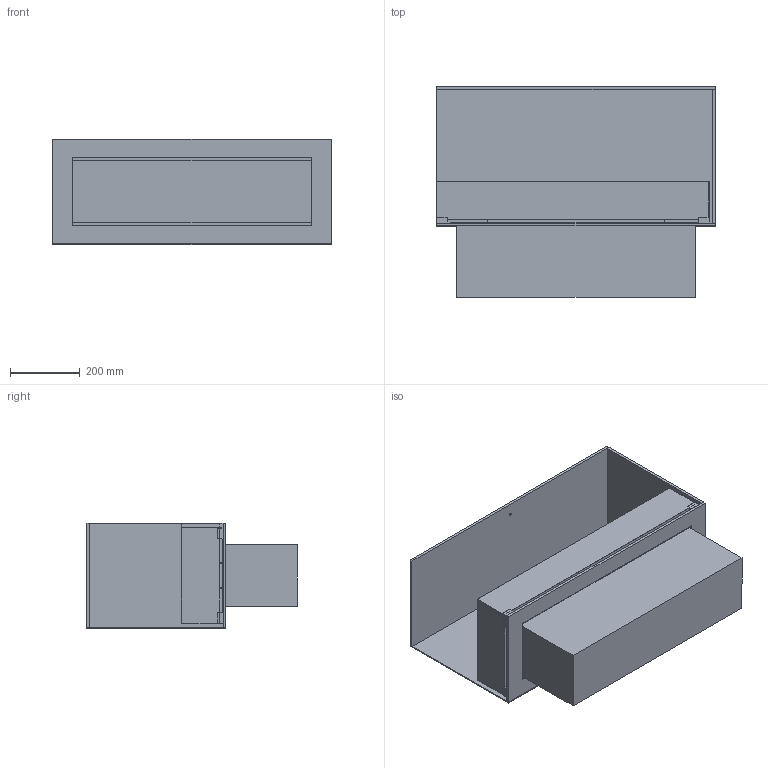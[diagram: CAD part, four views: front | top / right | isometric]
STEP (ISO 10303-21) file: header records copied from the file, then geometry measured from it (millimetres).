
FILE_DESCRIPTION (( 'STEP AP203' ), '1' );
FILE_NAME ('Montreal open to front and 1 side 800 Hybrid Mist.STEP', '2024-03-22T10:18:46', ( '' ), ( '' ), 'SwSTEP 2.0', 'SolidWorks 2023', '' );
FILE_SCHEMA (( 'CONFIG_CONTROL_DESIGN' ));
Length unit declared in the file: millimetre
Products named in the file (10): Part3^P&G -1120SI Montreal Single AUTOShowroom -look book; 8mm alu Top - P&G -1120SIShowroom -look book; Montreal open to front and 1 side 800 Hybrid Mist; 3mm alu Bag - P&G -1120SIShowroom -look book; 8mm alu Side - P&G -1120SIShowroom -look book_Glass; Part4^P&G -1120SI Montreal Single AUTOShowroom -look book; Part2^P&G -1120SI Montreal Single AUTOShowroom -look book; 8mm alu Bund - P&G -1120SIShowroom -look book; Denver F6_uden glass; Glas holder flad med sider 10mm
Assembly tree (12 placements, depth 2):
  Part3^P&G -1120SI Montreal Single AUTOShowroom -look book
  Montreal open to front and 1 side 800 Hybrid Mist
    8mm alu Top - P&G -1120SIShowroom -look book
    8mm alu Bund - P&G -1120SIShowroom -look book
    8mm alu Side - P&G -1120SIShowroom -look book_Glass
    3mm alu Bag - P&G -1120SIShowroom -look book
    Glas holder flad med sider 10mm  x5
    Part2^P&G -1120SI Montreal Single AUTOShowroom -look book
    Part4^P&G -1120SI Montreal Single AUTOShowroom -look book
    Denver F6_uden glass
Bounding box: 800 x 605 x 303 mm (x, y, z)
Volume: 32454514.1 mm3; surface area: 2884195.4 mm2
Topology: 16 solids, 16 shells, 209 faces, 469 edges, 298 vertices
Faces by surface type: plane 183, cylinder 26
Entity records: 5400 total; most frequent: CARTESIAN_POINT 739, DIRECTION 729, ORIENTED_EDGE 698, EDGE_CURVE 349, VECTOR 313, LINE 313, VERTEX_POINT 218, AXIS2_PLACEMENT_3D 208
